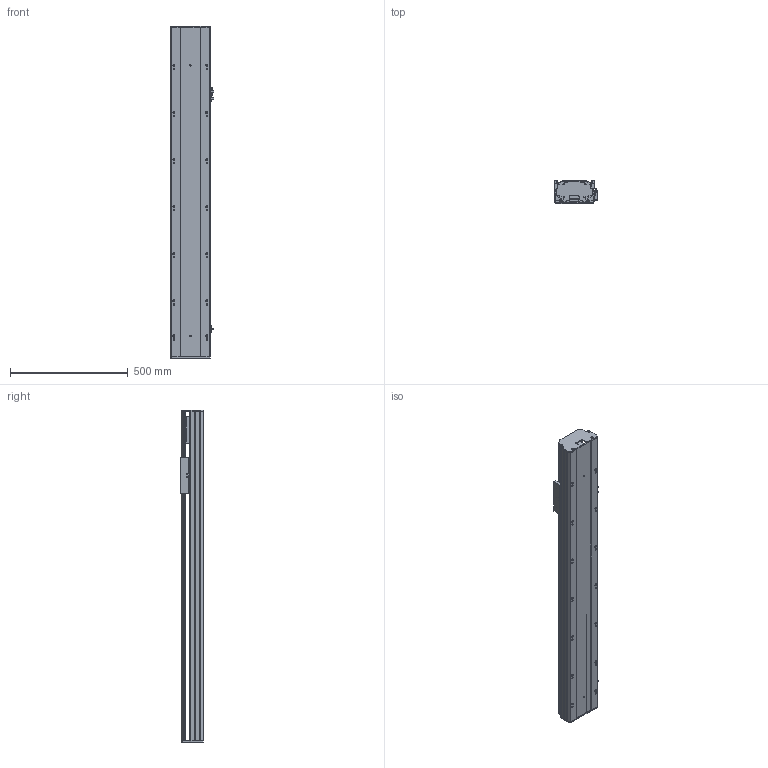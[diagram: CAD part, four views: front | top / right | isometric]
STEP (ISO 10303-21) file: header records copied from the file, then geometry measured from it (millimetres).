
FILE_DESCRIPTION (( 'STEP AP203' ), '1' );
FILE_NAME ('Y170-D10-S1000-M-P400W.STEP', '2020-01-22T12:59:41', ( '微软用户' ), ( '微软中国' ), 'SwSTEP 2.0', 'SolidWorks 2017', '' );
FILE_SCHEMA (( 'CONFIG_CONTROL_DESIGN' ));
Length unit declared in the file: millimetre
Products named in the file (10): Y170-陔遴奻裔-M; Y170-D10-S1000-M-P400W; Y100-135俋离換覜ん; 135-盓傅釱-FK15; Y170耜裔--準---; YD-Y100-135-新外置传感挡片(通用）; Y170--雄赽釱-梓--; 170--掛极-M; Y170耜裔--準---M; san松下电机400不带刹车----
Assembly tree (11 placements, depth 2):
  Y170-D10-S1000-M-P400W
    YD-Y100-135-新外置传感挡片(通用）
    Y100-135俋离換覜ん  x3
    135-盓傅釱-FK15
    Y170耜裔--準---
    Y170--雄赽釱-梓--
    170--掛极-M
    Y170耜裔--準---M
    san松下电机400不带刹车----
    Y170-陔遴奻裔-M
Bounding box: 183.5 x 97 x 1411 mm (x, y, z)
Volume: 6041171.4 mm3; surface area: 2144603.8 mm2
Topology: 11 solids, 11 shells, 797 faces, 2276 edges, 1508 vertices
Faces by surface type: cylinder 411, plane 384, torus 2
Entity records: 25980 total; most frequent: CARTESIAN_POINT 4681, DIRECTION 4302, ORIENTED_EDGE 4216, EDGE_CURVE 2108, AXIS2_PLACEMENT_3D 1529, VERTEX_POINT 1396, LINE 1244, VECTOR 1244
